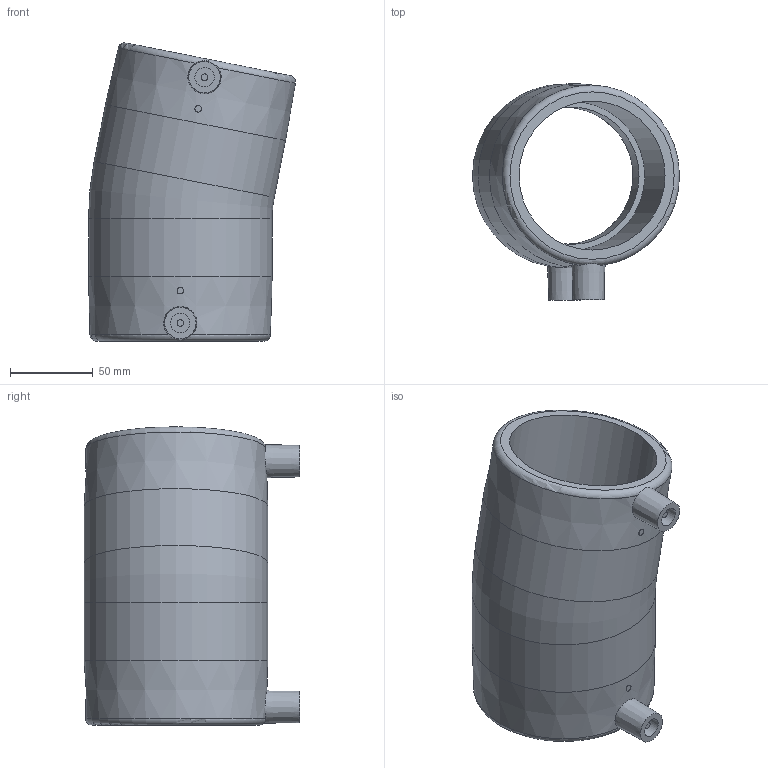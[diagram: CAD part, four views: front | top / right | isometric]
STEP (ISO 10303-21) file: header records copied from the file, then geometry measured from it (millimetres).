
FILE_DESCRIPTION(/* description */ ('Unknown'),/* implementation_level */ '2;1');
FILE_NAME(/* name */ 'GE1125P090C',/* time_stamp */ '2020-11-30T15:24:50+01:00',/* author */ ('Unknown'),/* organization */ ('Unknown'),/* preprocessor_version */ 'ST-DEVELOPER v16.7',/* originating_system */ 'Solid Edge',/* authorisation */ 'Unknown');
FILE_SCHEMA (('AUTOMOTIVE_DESIGN {1 0 10303 214 3 1 1}'));
Length unit declared in the file: millimetre
Products named in the file (1): GE1125P090C
Bounding box: 125.13 x 130.5 x 180.29 mm (x, y, z)
Volume: 607499.7 mm3; surface area: 117926.5 mm2
Topology: 1 solids, 1 shells, 32 faces, 75 edges, 53 vertices
Faces by surface type: plane 12, cylinder 12, torus 4, cone 4
Full cylindrical faces by diameter (mm): 4 x4, 11.7 x2, 83 x2, 90 x2, 111 x2
Entity records: 838 total; most frequent: CARTESIAN_POINT 186, DIRECTION 140, ORIENTED_EDGE 90, AXIS2_PLACEMENT_3D 70, EDGE_LOOP 61, FACE_BOUND 61, EDGE_CURVE 45, VERTEX_POINT 42
